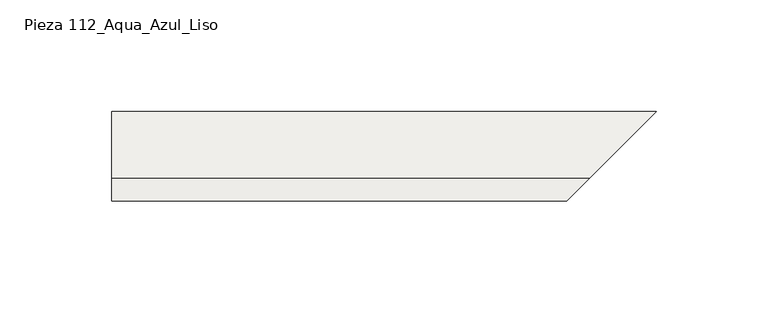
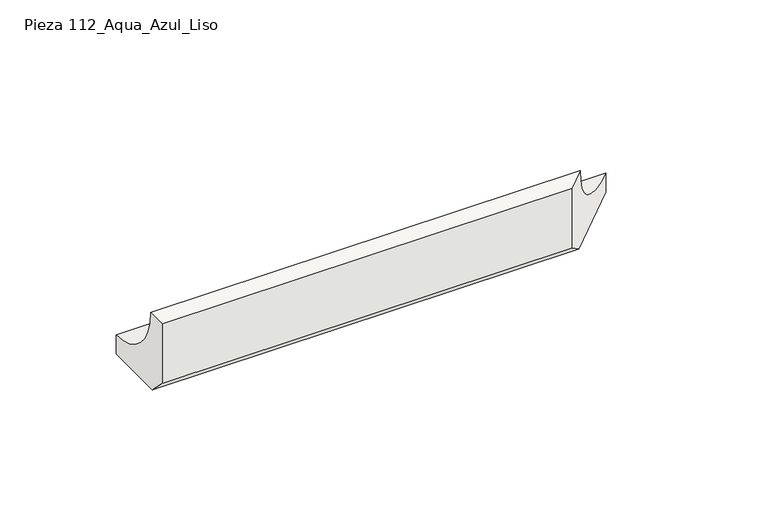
"""IFC4 building model written with IfcOpenShell, lengths in millimetres: slab geometry, ROSA GRES_112 (corte) : Pieza 112_Aqua_Azul_Liso."""

import ifcopenshell
import ifcopenshell.guid

model = None  # the IFC model being written
_history = None  # IfcOwnerHistory: only IFC2X3 demands one
_inside = {}  # id of a spatial element -> (the spatial element, [elements in it])
_under = {}  # id of a project, library or spatial element -> (it, [spatial elements below it])
_declared = {}  # id of a project -> (the project, [libraries it declares])
_typed = {}  # id of a type object -> (the type object, [elements of that type])
_made_of = {}  # id of a material, layer set ... -> (it, [elements and type objects made of it])


def new_model(schema):
    """Start an empty IFC model of exactly this schema.

    Asked for "IFC4X3", IfcOpenShell would pick the latest addendum, in which some entities
    have other attributes; the version numbers below select the first issue.
    IFC2X3 requires an IfcOwnerHistory on every rooted entity: one is made here for all.
    """
    global model, _history
    if schema == "IFC4X3":
        model = ifcopenshell.file(schema_version=(4, 3, 0, 0))
    else:
        model = ifcopenshell.file(schema=schema)
    _inside.clear()
    _under.clear()
    _declared.clear()
    _typed.clear()
    _made_of.clear()
    _history = None
    if model.schema == "IFC2X3":
        org = make("IfcOrganization", Name="unknown")
        user = make(
            "IfcPersonAndOrganization",
            ThePerson=make("IfcPerson", FamilyName="unknown"),
            TheOrganization=org,
        )
        app = make(
            "IfcApplication",
            ApplicationDeveloper=org,
            Version="unknown",
            ApplicationFullName="unknown",
            ApplicationIdentifier="unknown",
        )
        _history = make(
            "IfcOwnerHistory",
            OwningUser=user,
            OwningApplication=app,
            ChangeAction="ADDED",
            CreationDate=0,
        )
    return model


def make(cls, **values):
    """One entity of the class cls with the attributes given. An attribute that is None is left unset."""
    return model.create_entity(
        cls, **{name: value for name, value in values.items() if value is not None}
    )


def rooted(cls, **values):
    """An entity with a GlobalId (a new one), such as an element, a storey or a relation."""
    return make(cls, GlobalId=ifcopenshell.guid.new(), OwnerHistory=_history, **values)


def si_unit(unit_type, name, prefix=None):
    """IfcSIUnit, for example si_unit("LENGTHUNIT", "METRE", prefix="MILLI")."""
    return make("IfcSIUnit", UnitType=unit_type, Prefix=prefix, Name=name)


def assignment(units):
    """IfcUnitAssignment: the units of a project."""
    return None if units is None else make("IfcUnitAssignment", Units=units)


def point(xyz):
    """IfcCartesianPoint."""
    return None if xyz is None else make("IfcCartesianPoint", Coordinates=xyz)


def direction(xyz):
    """IfcDirection."""
    return None if xyz is None else make("IfcDirection", DirectionRatios=xyz)


def frame(location, z_axis=None, x_axis=None):
    """IfcAxis2Placement3D, a coordinate frame: its origin and axes. An axis left out is left unset."""
    return make(
        "IfcAxis2Placement3D",
        Location=point(location),
        Axis=direction(z_axis),
        RefDirection=direction(x_axis),
    )


def origin():
    """The frame at (0, 0, 0) with its axes left unset."""
    return frame((0.0, 0.0, 0.0))


def place(relative_to, where):
    """IfcLocalPlacement: puts the frame where relative to a parent placement (None: the world)."""
    return make(
        "IfcLocalPlacement", PlacementRelTo=relative_to, RelativePlacement=where
    )


def context(
    kind, dimensions, precision=None, world=None, true_north=None, identifier=None
):
    """IfcGeometricRepresentationContext, for example the 3D "Model" context."""
    return make(
        "IfcGeometricRepresentationContext",
        ContextIdentifier=identifier,
        ContextType=kind,
        CoordinateSpaceDimension=dimensions,
        Precision=precision,
        WorldCoordinateSystem=world,
        TrueNorth=true_north,
    )


def project(units=None, contexts=None):
    """IfcProject with its units and contexts."""
    return rooted(
        "IfcProject",
        Name="project",
        RepresentationContexts=contexts,
        UnitsInContext=assignment(units),
    )


def spatial(cls, under=None, at=None, **own):
    """A site, building, storey or space (cls), placed at a placement, below another one or the project."""
    s = rooted(cls, ObjectPlacement=at, **own)
    if under is not None:
        _under.setdefault(under.id(), (under, []))[1].append(s)
    return s


def polyline(points):
    """IfcPolyline through the points."""
    return make("IfcPolyline", Points=[point(p) for p in points])


def circle_curve(where, radius):
    """IfcCircle in the frame where."""
    return make("IfcCircle", Position=where, Radius=radius)


def ellipse_curve(where, semi_axis1, semi_axis2):
    """IfcEllipse in the frame where."""
    return make(
        "IfcEllipse", Position=where, SemiAxis1=semi_axis1, SemiAxis2=semi_axis2
    )


def shape(context_of_items, identifier, shape_type, items):
    """IfcShapeRepresentation: the items that make up one representation, for example the "Body"."""
    return make(
        "IfcShapeRepresentation",
        ContextOfItems=context_of_items,
        RepresentationIdentifier=identifier,
        RepresentationType=shape_type,
        Items=items,
    )


def source(mapping_origin, context_of_items, identifier, shape_type, items):
    """IfcRepresentationMap: a shape defined once, which mapped items show again and again."""
    return make(
        "IfcRepresentationMap",
        MappingOrigin=mapping_origin,
        MappedRepresentation=shape(context_of_items, identifier, shape_type, items),
    )


def transform(
    local_origin,
    x_axis=None,
    y_axis=None,
    z_axis=None,
    scale=None,
    scale2=None,
    scale3=None,
    uniform=True,
):
    """IfcCartesianTransformationOperator3D, or its non-uniform kind. x_axis, y_axis, z_axis: its Axis1, 2, 3."""
    if uniform:
        return make(
            "IfcCartesianTransformationOperator3D",
            Axis1=direction(x_axis),
            Axis2=direction(y_axis),
            LocalOrigin=point(local_origin),
            Scale=scale,
            Axis3=direction(z_axis),
        )
    return make(
        "IfcCartesianTransformationOperator3DnonUniform",
        Axis1=direction(x_axis),
        Axis2=direction(y_axis),
        LocalOrigin=point(local_origin),
        Scale=scale,
        Axis3=direction(z_axis),
        Scale2=scale2,
        Scale3=scale3,
    )


def mapped(mapping_source, mapping_target):
    """IfcMappedItem: shows the shape of a source again, moved by a transform."""
    return make(
        "IfcMappedItem", MappingSource=mapping_source, MappingTarget=mapping_target
    )


def made_of(thing, what):
    """Note that an element or type object is made of a material, layer set ...; save() writes the relation."""
    if what is not None:
        _made_of.setdefault(what.id(), (what, []))[1].append(thing)
    return thing


def element(
    cls,
    number,
    at=None,
    inside=None,
    cuts=None,
    type_object=None,
    material=None,
    context=None,
    identifier="Body",
    shape_type=None,
    held_by="IfcProductDefinitionShape",
    body=None,
    shapes=None,
    **own,
):
    """One element of the class cls, such as IfcWall. Its Tag is "e" and its number.

    at: its placement. inside: the storey or other place that contains it. cuts: it is an
    opening in that element (IfcRelVoidsElement). A single representation is given by context,
    identifier, shape_type and body (its items); several are given by shapes. held_by: the class
    of the entity that holds the representations. save() writes the other relations.
    """
    e = rooted(cls, Tag="e%d" % number, ObjectPlacement=at, **own)
    if body is not None:
        shapes = [shape(context, identifier, shape_type, body)]
    if shapes is not None:
        e.Representation = make(held_by, Representations=shapes)
    if inside is not None:
        _inside.setdefault(inside.id(), (inside, []))[1].append(e)
    if cuts is not None:
        rooted(
            "IfcRelVoidsElement", RelatingBuildingElement=cuts, RelatedOpeningElement=e
        )
    if type_object is not None:
        _typed.setdefault(type_object.id(), (type_object, []))[1].append(e)
    return made_of(e, material)


def aggregate(whole, parts):
    """IfcRelAggregates: a whole, such as a stair, and the parts it consists of."""
    return rooted("IfcRelAggregates", RelatingObject=whole, RelatedObjects=parts)


def save(model, path):
    """Write the relations noted so far, then the file.

    IfcRelAggregates (storeys below a building ...), IfcRelContainedInSpatialStructure (elements
    in a storey), IfcRelDefinesByType, IfcRelAssociatesMaterial and IfcRelDeclares: one each for
    every whole, place, type object, material and project.
    """
    for whole, parts in _under.values():
        aggregate(whole, parts)
    for where, things in _inside.values():
        rooted(
            "IfcRelContainedInSpatialStructure",
            RelatedElements=things,
            RelatingStructure=where,
        )
    for kind, things in _typed.values():
        rooted("IfcRelDefinesByType", RelatedObjects=things, RelatingType=kind)
    for what, things in _made_of.values():
        rooted("IfcRelAssociatesMaterial", RelatedObjects=things, RelatingMaterial=what)
    for by, libraries in _declared.values():
        rooted("IfcRelDeclares", RelatingContext=by, RelatedDefinitions=libraries)
    model.write(path)


def plane_surface(at):
    """IfcPlane: the flat surface through the origin of the frame at, square to its z axis."""
    return make("IfcPlane", Position=at)


def revolved_surface(curve, axis_point, axis_direction):
    """IfcSurfaceOfRevolution: the curve turned about the line through axis_point along axis_direction."""
    return make(
        "IfcSurfaceOfRevolution",
        SweptCurve=make("IfcArbitraryOpenProfileDef", ProfileType="CURVE", Curve=curve),
        AxisPosition=make("IfcAxis1Placement", Location=point(axis_point), Axis=direction(axis_direction)),
    )


def advanced_brep(points, edges, surfaces, faces):
    """IfcAdvancedBrep: a solid bounded by faces that lie on surfaces and meet in shared edges.

    An edge is (start, end): straight between two places in points (the first is 0);
    or (start, end, curve); or (start, end, curve, False) where it runs against its curve.
    A face is (place in surfaces, loops), or (place, loops, False) where it looks against
    its surface's normal. A loop lists edges by number (the first is 1), with a minus sign
    where the edge is run from its end to its start. The first loop is the outer one.
    """
    corners = [point(p) for p in points]
    vertices = [make("IfcVertexPoint", VertexGeometry=c) for c in corners]
    made = []
    for start, end, *more in edges:
        made.append(
            make(
                "IfcEdgeCurve",
                EdgeStart=vertices[start],
                EdgeEnd=vertices[end],
                EdgeGeometry=more[0] if more else make("IfcPolyline", Points=[corners[start], corners[end]]),
                SameSense=more[1] if len(more) > 1 else True,
            )
        )
    hull = []
    for where, loops, *sense in faces:
        bounds = []
        for j, loop in enumerate(loops):
            ring = [make("IfcOrientedEdge", EdgeElement=made[abs(k) - 1], Orientation=k > 0) for k in loop]
            bounds.append(
                make(
                    "IfcFaceOuterBound" if j == 0 else "IfcFaceBound",
                    Bound=make("IfcEdgeLoop", EdgeList=ring),
                    Orientation=True,
                )
            )
        hull.append(make("IfcAdvancedFace", Bounds=bounds, FaceSurface=surfaces[where], SameSense=sense[0] if sense else True))
    return make("IfcAdvancedBrep", Outer=make("IfcClosedShell", CfsFaces=hull))


def pieza_112_aqua_azul_liso_1c12e06b(model_context):
    return source(origin(), model_context, "Body", "AdvancedBrep", [
        advanced_brep(
        [(0.0, 0.0, 8.7114978), (0.0, 0.0, 40.0), (0.0, 9.9734114, 40.0), (0.0, 40.0, 9.9734114), (0.0, 40.0, 0.0), (0.0, 8.7114978, 0.0), (203.5, 0.0, 8.7114978), (203.5, 0.0, 40.0), (213.4734114, 9.9734114, 40.0), (243.5, 40.0, 9.9734114), (243.5, 40.0, 0.0), (212.2114978, 8.7114978, 0.0)],
        [
            (0, 1),
            (1, 2),
            (2, 3, circle_curve(frame((0.0, 39.9955547, 39.9955547), z_axis=(1.0, 0.0, 0.0), x_axis=(0.0, 1.0, 0.0)), 30.0221435)),
            (3, 4),
            (4, 5),
            (5, 0),
            (0, 6),
            (6, 7),
            (7, 1),
            (7, 8),
            (8, 2),
            (8, 9, ellipse_curve(frame((243.4955547, 39.9955547, 39.9955547), z_axis=(0.7071067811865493, -0.7071067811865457, 0.0), x_axis=(0.7071067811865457, 0.7071067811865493, 0.0)), 42.4577226, 30.0221435)),
            (9, 3),
            (9, 10),
            (10, 4),
            (10, 11),
            (11, 5),
            (11, 6),
        ],
        [
            plane_surface(frame((0.0, 0.0, 0.0), z_axis=(-1.0, 0.0, 0.0), x_axis=(0.0, 0.0, 1.0))),
            plane_surface(frame((0.0, 0.0, 8.7114978), z_axis=(0.0, -1.0, 0.0), x_axis=(1.0, 0.0, 0.0))),
            plane_surface(frame((0.0, 0.0, 40.0), z_axis=(0.0, 0.0, 1.0), x_axis=(1.0, 0.0, 0.0))),
            revolved_surface(polyline([(273.5176982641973, 70.0176982, 39.9955547), (0.0, 70.0176982, 39.9955547)]), (0.0, 39.9955547, 39.9955547), (1.0, 0.0, 0.0)),
            plane_surface(frame((0.0, 40.0, 9.9734114), z_axis=(0.0, 1.0, 0.0), x_axis=(1.0, 0.0, 0.0))),
            plane_surface(frame((0.0, 40.0, 0.0), z_axis=(0.0, 0.0, -1.0), x_axis=(1.0, 0.0, 0.0))),
            plane_surface(frame((0.0, 8.7114978, 0.0), z_axis=(0.0, -0.707106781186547, -0.7071067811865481), x_axis=(1.0, 0.0, 0.0))),
            plane_surface(frame((244.0, 40.5, 104.9871832), z_axis=(0.7071067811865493, -0.7071067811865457, 0.0), x_axis=(0.0, 0.0, -1.0))),
        ],
        [
            (0, [[1, 2, 3, 4, 5, 6]]),
            (1, [[-1, 7, 8, 9]]),
            (2, [[-2, -9, 10, 11]]),
            (3, [[-3, -11, 12, 13]]),
            (4, [[-4, -13, 14, 15]]),
            (5, [[-5, -15, 16, 17]]),
            (6, [[-6, -17, 18, -7]]),
            (7, [[-8, -18, -16, -14, -12, -10]]),
        ],
    ),
    ])


if __name__ == "__main__":
    model = new_model("IFC4")
    model_context = context("Model", 3, world=origin())
    ifc_project = project(units=[si_unit("LENGTHUNIT", "METRE", prefix="MILLI")], contexts=[model_context])
    site = spatial("IfcSite", under=ifc_project)
    building = spatial("IfcBuilding", under=site)
    placement = place(None, origin())
    pieza_112_aqua_azul_liso_shape = pieza_112_aqua_azul_liso_1c12e06b(model_context)
    element("IfcSlab", 1, ObjectType="ROSA GRES_112 (corte) : Pieza 112_Aqua_Azul_Liso", at=placement, inside=building, context=model_context, shape_type="MappedRepresentation", body=[
        mapped(pieza_112_aqua_azul_liso_shape, transform((0.0, 0.0, 0.0), x_axis=(1.0, 0.0, 0.0), y_axis=(0.0, 1.0, 0.0), z_axis=(0.0, 0.0, 1.0))),
    ])
    save(model, "model.ifc")
